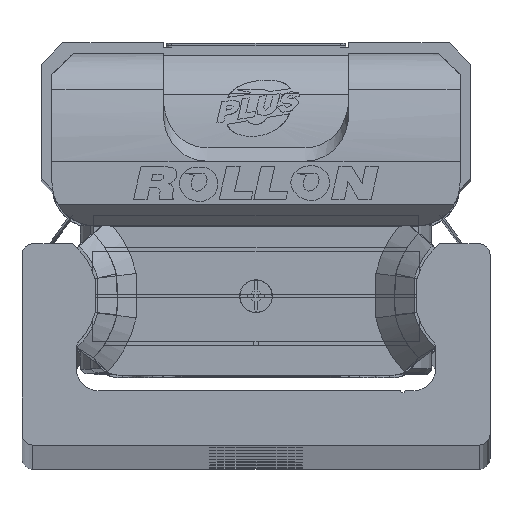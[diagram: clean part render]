
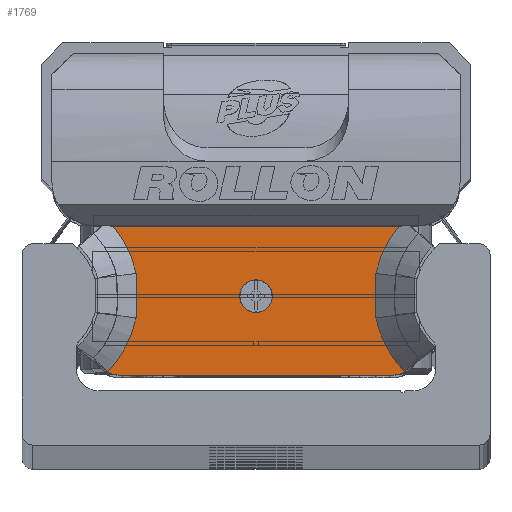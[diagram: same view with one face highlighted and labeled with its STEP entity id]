
A CAD part, top view. The second image highlights one B-rep face of the part: STEP entity #1769.
In plain terms, the highlighted planar face has unit normal (0, 0, 1) as drawn and (0, 0, -1) by its records, which use the part's own axes.
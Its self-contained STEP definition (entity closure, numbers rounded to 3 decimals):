
#1769 = ADVANCED_FACE( '', ( #3790, #3791 ), #3792, .F. );
#3790 = FACE_BOUND( '', #6166, .T. );
#3791 = FACE_OUTER_BOUND( '', #6167, .T. );
#3792 = PLANE( '', #6168 );
#6166 = EDGE_LOOP( '', ( #10927 ) );
#6167 = EDGE_LOOP( '', ( #10928, #10929, #10930, #10931, #10932, #10933, #10934, #10935, #10936, #10937, #10938, #10939 ) );
#6168 = AXIS2_PLACEMENT_3D( '', #10940, #10941, #10942 );
#10927 = ORIENTED_EDGE( '', *, *, #14541, .T. );
#10928 = ORIENTED_EDGE( '', *, *, #13845, .T. );
#10929 = ORIENTED_EDGE( '', *, *, #14448, .F. );
#10930 = ORIENTED_EDGE( '', *, *, #14542, .T. );
#10931 = ORIENTED_EDGE( '', *, *, #14535, .F. );
#10932 = ORIENTED_EDGE( '', *, *, #13366, .T. );
#10933 = ORIENTED_EDGE( '', *, *, #14144, .T. );
#10934 = ORIENTED_EDGE( '', *, *, #14434, .T. );
#10935 = ORIENTED_EDGE( '', *, *, #14039, .T. );
#10936 = ORIENTED_EDGE( '', *, *, #13314, .T. );
#10937 = ORIENTED_EDGE( '', *, *, #13086, .T. );
#10938 = ORIENTED_EDGE( '', *, *, #14063, .T. );
#10939 = ORIENTED_EDGE( '', *, *, #13031, .T. );
#10940 = CARTESIAN_POINT( '', ( 14.9, 7.35, -13.25 ) );
#10941 = DIRECTION( '', ( 0., 0., 1. ) );
#10942 = DIRECTION( '', ( 1., 0., 0. ) );
#13031 = EDGE_CURVE( '', #15598, #15596, #15599, .T. );
#13086 = EDGE_CURVE( '', #15687, #15693, #15695, .T. );
#13314 = EDGE_CURVE( '', #16076, #15687, #16077, .T. );
#13366 = EDGE_CURVE( '', #16158, #16156, #16159, .T. );
#13845 = EDGE_CURVE( '', #15596, #15018, #16910, .T. );
#14039 = EDGE_CURVE( '', #17186, #16076, #17187, .T. );
#14063 = EDGE_CURVE( '', #15693, #15598, #17220, .T. );
#14144 = EDGE_CURVE( '', #16156, #17338, #17340, .T. );
#14434 = EDGE_CURVE( '', #17338, #17186, #17713, .T. );
#14448 = EDGE_CURVE( '', #17731, #15018, #17733, .T. );
#14535 = EDGE_CURVE( '', #16158, #17836, #17837, .T. );
#14541 = EDGE_CURVE( '', #17843, #17843, #17844, .T. );
#14542 = EDGE_CURVE( '', #17731, #17836, #17845, .T. );
#15018 = VERTEX_POINT( '', #18419 );
#15596 = VERTEX_POINT( '', #19174 );
#15598 = VERTEX_POINT( '', #19177 );
#15599 = B_SPLINE_CURVE_WITH_KNOTS( '', 2, ( #19178, #19179, #19180, #19181, #19182 ), .UNSPECIFIED., .F., .F., ( 3, 2, 3 ), ( 0., 0.5, 1. ), .UNSPECIFIED. );
#15687 = VERTEX_POINT( '', #19398 );
#15693 = VERTEX_POINT( '', #19411 );
#15695 = B_SPLINE_CURVE_WITH_KNOTS( '', 2, ( #19414, #19415, #19416, #19417, #19418 ), .UNSPECIFIED., .F., .F., ( 3, 2, 3 ), ( 0.133, 0.5, 1. ), .UNSPECIFIED. );
#16076 = VERTEX_POINT( '', #20010 );
#16077 = LINE( '', #20011, #20012 );
#16156 = VERTEX_POINT( '', #20113 );
#16158 = VERTEX_POINT( '', #20116 );
#16159 = B_SPLINE_CURVE_WITH_KNOTS( '', 1, ( #20117, #20118 ), .UNSPECIFIED., .F., .F., ( 2, 2 ), ( 0., 1. ), .UNSPECIFIED. );
#16910 = B_SPLINE_CURVE_WITH_KNOTS( '', 1, ( #21141, #21142 ), .UNSPECIFIED., .F., .F., ( 2, 2 ), ( 0., 1. ), .UNSPECIFIED. );
#17186 = VERTEX_POINT( '', #21555 );
#17187 = B_SPLINE_CURVE_WITH_KNOTS( '', 2, ( #21556, #21557, #21558, #21559, #21560 ), .UNSPECIFIED., .F., .F., ( 3, 2, 3 ), ( 0., 0.5, 0.868 ), .UNSPECIFIED. );
#17220 = B_SPLINE_CURVE_WITH_KNOTS( '', 2, ( #21600, #21601, #21602 ), .UNSPECIFIED., .F., .F., ( 3, 3 ), ( 0., 1. ), .UNSPECIFIED. );
#17338 = VERTEX_POINT( '', #21769 );
#17340 = B_SPLINE_CURVE_WITH_KNOTS( '', 2, ( #21772, #21773, #21774, #21775, #21776 ), .UNSPECIFIED., .F., .F., ( 3, 2, 3 ), ( 0., 0.5, 1. ), .UNSPECIFIED. );
#17713 = B_SPLINE_CURVE_WITH_KNOTS( '', 2, ( #22311, #22312, #22313 ), .UNSPECIFIED., .F., .F., ( 3, 3 ), ( 0., 1. ), .UNSPECIFIED. );
#17731 = VERTEX_POINT( '', #22332 );
#17733 = CIRCLE( '', #22335, 2.5 );
#17836 = VERTEX_POINT( '', #22469 );
#17837 = CIRCLE( '', #22470, 2.5 );
#17843 = VERTEX_POINT( '', #22478 );
#17844 = CIRCLE( '', #22479, 1.5 );
#17845 = LINE( '', #22480, #22481 );
#18419 = CARTESIAN_POINT( '', ( 14.906, -5.717, -13.25 ) );
#19174 = CARTESIAN_POINT( '', ( 13.628, -6.965, -13.25 ) );
#19177 = CARTESIAN_POINT( '', ( 11.012, -2.045, -13.25 ) );
#19178 = CARTESIAN_POINT( '', ( 11.012, -2.045, -13.25 ) );
#19179 = CARTESIAN_POINT( '', ( 11.301, -3.43, -13.25 ) );
#19180 = CARTESIAN_POINT( '', ( 11.972, -4.69, -13.25 ) );
#19181 = CARTESIAN_POINT( '', ( 12.642, -5.95, -13.25 ) );
#19182 = CARTESIAN_POINT( '', ( 13.628, -6.965, -13.25 ) );
#19398 = CARTESIAN_POINT( '', ( 13.12, 6.4, -13.25 ) );
#19411 = CARTESIAN_POINT( '', ( 11.012, 2.045, -13.25 ) );
#19414 = CARTESIAN_POINT( '', ( 13.119, 6.4, -13.25 ) );
#19415 = CARTESIAN_POINT( '', ( 12.459, 5.608, -13.25 ) );
#19416 = CARTESIAN_POINT( '', ( 11.968, 4.684, -13.25 ) );
#19417 = CARTESIAN_POINT( '', ( 11.301, 3.427, -13.25 ) );
#19418 = CARTESIAN_POINT( '', ( 11.012, 2.045, -13.25 ) );
#20010 = CARTESIAN_POINT( '', ( -13.119, 6.4, -13.25 ) );
#20011 = CARTESIAN_POINT( '', ( 14.9, 6.4, -13.25 ) );
#20012 = VECTOR( '', #23788, 1000. );
#20113 = CARTESIAN_POINT( '', ( -13.628, -6.965, -13.25 ) );
#20116 = CARTESIAN_POINT( '', ( -14.904, -5.718, -13.25 ) );
#20117 = CARTESIAN_POINT( '', ( -14.915, -5.713, -13.25 ) );
#20118 = CARTESIAN_POINT( '', ( -13.628, -6.965, -13.25 ) );
#21141 = CARTESIAN_POINT( '', ( 13.628, -6.965, -13.25 ) );
#21142 = CARTESIAN_POINT( '', ( 14.9, -5.728, -13.25 ) );
#21555 = CARTESIAN_POINT( '', ( -11.012, 2.045, -13.25 ) );
#21556 = CARTESIAN_POINT( '', ( -11.012, 2.045, -13.25 ) );
#21557 = CARTESIAN_POINT( '', ( -11.302, 3.432, -13.25 ) );
#21558 = CARTESIAN_POINT( '', ( -11.967, 4.685, -13.25 ) );
#21559 = CARTESIAN_POINT( '', ( -12.456, 5.606, -13.25 ) );
#21560 = CARTESIAN_POINT( '', ( -13.119, 6.4, -13.25 ) );
#21600 = CARTESIAN_POINT( '', ( 11.012, 2.045, -13.25 ) );
#21601 = CARTESIAN_POINT( '', ( 10.888, 0., -13.25 ) );
#21602 = CARTESIAN_POINT( '', ( 11.012, -2.045, -13.25 ) );
#21769 = CARTESIAN_POINT( '', ( -11.012, -2.045, -13.25 ) );
#21772 = CARTESIAN_POINT( '', ( -13.628, -6.965, -13.25 ) );
#21773 = CARTESIAN_POINT( '', ( -12.638, -5.946, -13.25 ) );
#21774 = CARTESIAN_POINT( '', ( -11.97, -4.691, -13.25 ) );
#21775 = CARTESIAN_POINT( '', ( -11.303, -3.437, -13.25 ) );
#21776 = CARTESIAN_POINT( '', ( -11.012, -2.045, -13.25 ) );
#22311 = CARTESIAN_POINT( '', ( -11.012, -2.045, -13.25 ) );
#22312 = CARTESIAN_POINT( '', ( -10.888, 0., -13.25 ) );
#22313 = CARTESIAN_POINT( '', ( -11.012, 2.045, -13.25 ) );
#22332 = CARTESIAN_POINT( '', ( 12.58, -7.3, -13.25 ) );
#22335 = AXIS2_PLACEMENT_3D( '', #25312, #25313, #25314 );
#22469 = CARTESIAN_POINT( '', ( -12.58, -7.3, -13.25 ) );
#22470 = AXIS2_PLACEMENT_3D( '', #25398, #25399, #25400 );
#22478 = CARTESIAN_POINT( '', ( 1.5, -0.05, -13.25 ) );
#22479 = AXIS2_PLACEMENT_3D( '', #25403, #25404, #25405 );
#22480 = CARTESIAN_POINT( '', ( 12.58, -7.3, -13.25 ) );
#22481 = VECTOR( '', #25406, 1000. );
#23788 = DIRECTION( '', ( 1., 0., 0. ) );
#25312 = CARTESIAN_POINT( '', ( 12.58, -4.8, -13.25 ) );
#25313 = DIRECTION( '', ( 0., 0., 1. ) );
#25314 = DIRECTION( '', ( 1., 0., 0. ) );
#25398 = CARTESIAN_POINT( '', ( -12.58, -4.8, -13.25 ) );
#25399 = DIRECTION( '', ( 0., 0., 1. ) );
#25400 = DIRECTION( '', ( 1., 0., 0. ) );
#25403 = CARTESIAN_POINT( '', ( 0., -0.05, -13.25 ) );
#25404 = DIRECTION( '', ( 0., 0., 1. ) );
#25405 = DIRECTION( '', ( 1., 0., 0. ) );
#25406 = DIRECTION( '', ( -1., 0., 0. ) );
